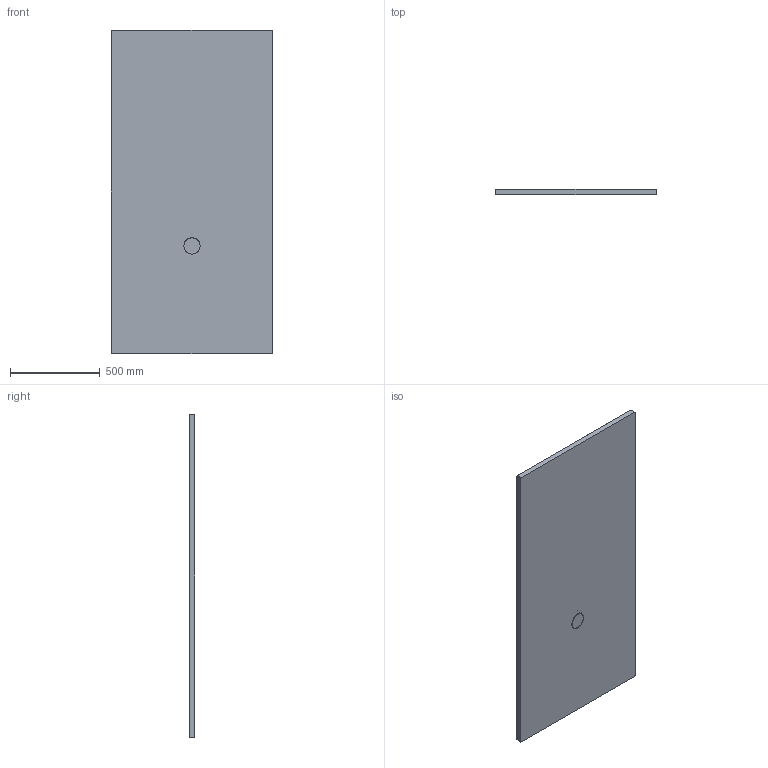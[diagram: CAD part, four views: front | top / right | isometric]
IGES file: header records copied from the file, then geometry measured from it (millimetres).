
Start section: SolidWorks IGES file using analytic representation for surfaces
Global section: file name: D:\Users\M.Szymanski\Desktop\Brodziki\Nias\B_M_NIAS_180x90x1,5.IGS; native system: SolidWorks 2011; preprocessor: SolidWorks 2011; author: M.Szymanski; date: 180222.142629; units: millimetre
Bounding box: 900 x 30 x 1800 mm (x, y, z)
Surface area: 3422185.7 mm2 (no closed solid volume)
Topology: 0 solids, 0 shells, 45 faces, 693 edges, 692 vertices
Faces by surface type: bspline 25, revolution 20
